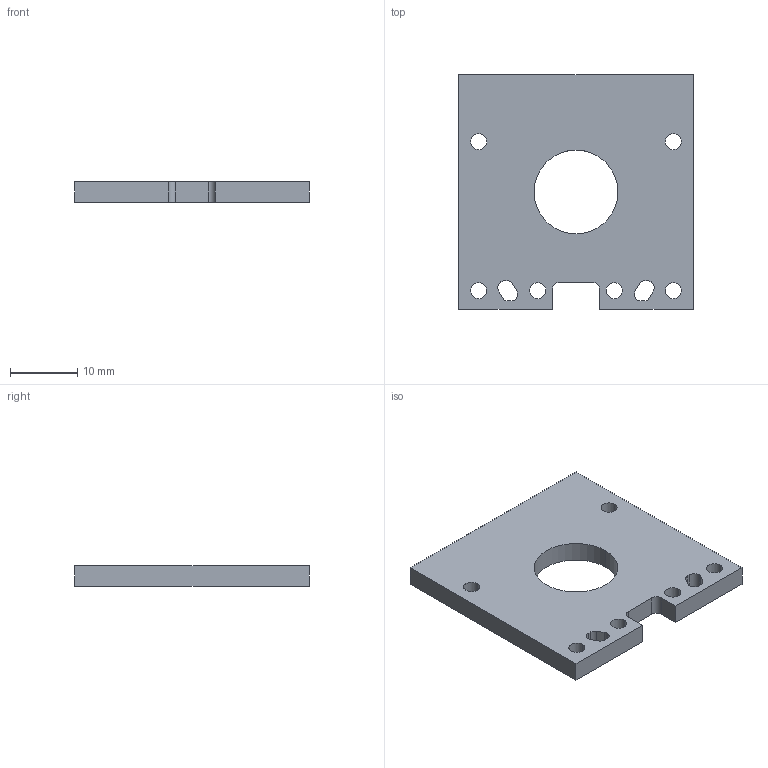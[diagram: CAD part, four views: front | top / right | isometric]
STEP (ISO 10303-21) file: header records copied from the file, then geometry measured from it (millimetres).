
FILE_DESCRIPTION (( 'STEP AP203' ), '1' );
FILE_NAME ('çàãëóøêà íèæíÿÿ.STEP', '2020-07-21T11:53:21', ( '' ), ( '' ), 'SwSTEP 2.0', 'SolidWorks 2020', '' );
FILE_SCHEMA (( 'CONFIG_CONTROL_DESIGN' ));
Length unit declared in the file: millimetre
Products named in the file (1): çàãëóøêà íèæíÿÿ
Bounding box: 35 x 35 x 3 mm (x, y, z)
Volume: 3102.6 mm3; surface area: 2819.8 mm2
Topology: 1 solids, 1 shells, 44 faces, 126 edges, 84 vertices
Faces by surface type: cylinder 26, plane 18
Entity records: 1575 total; most frequent: DIRECTION 268, CARTESIAN_POINT 255, ORIENTED_EDGE 252, EDGE_CURVE 126, AXIS2_PLACEMENT_3D 97, VERTEX_POINT 84, LINE 74, VECTOR 74
